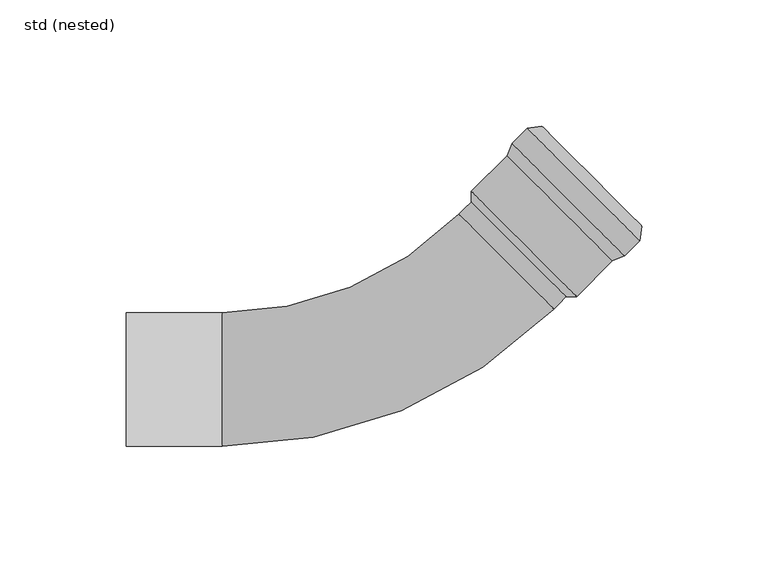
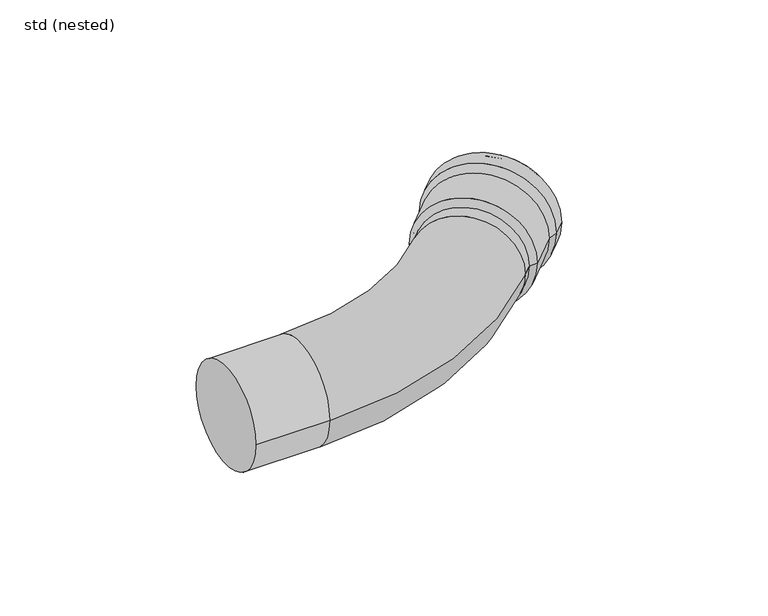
"""IFC4 building model written with IfcOpenShell, lengths in millimetres: pipe fitting geometry, ZZZ_do not use_PIF_ST_UN_GM-X pipe bend_ACO : std (nested)."""

from ifc_helpers import new_model, si_unit, point, frame, origin, place, context, project, spatial, polyline, circle_curve, ellipse_curve, trimmed, source, transform, mapped, element, save
from ifc_brep_helpers import plane_surface, cylinder_surface, revolved_surface, advanced_brep


def std_nested_82956641(model_context):
    return source(origin(), model_context, "Body", "AdvancedBrep", [
        advanced_brep(
        [(93.5481556, 49.0064546, 0.0), (48.9985452, 93.5522986, 0.0), (54.9379911, 99.4922466, 0.0), (99.4876014, 54.9464026, 0.0), (88.7399132, 47.0263523, 0.0), (47.0188495, 88.7438888, 0.0), (60.8069385, 100.4117335, 0.0), (100.4065921, 60.8154278, 0.0), (74.5983754, 32.8836189, 0.0), (32.8773117, 74.6011553, 0.0), (70.3557347, 32.8834395, 0.0), (32.8774911, 70.3585146, 0.0), (72.4769654, 35.0048495, 0.0), (34.9987217, 72.4799246, 0.0), (87.8913312, 48.2991087, 0.0), (48.2916776, 87.8954144, 0.0), (33.9380167, 73.54054, 0.0), (73.5376704, 33.9442342, 0.0), (92.6995736, 50.2792109, 0.0), (50.2713733, 92.7038242, 0.0), (98.0812756, 55.6613679, 0.0), (55.6530753, 98.0859812, 0.0), (98.9246495, 61.0474751, 0.0), (61.0391111, 98.9298105, 0.0)],
        [
            (0, 1, circle_curve(frame((71.2733504, 71.2793766, 0.0), z_axis=(0.7070768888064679, 0.7071366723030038, 0.0), x_axis=(-0.7071366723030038, 0.7070768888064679, 0.0)), 31.5)),
            (1, 2),
            (2, 3, circle_curve(frame((77.2127963, 77.2193246, 0.0), z_axis=(-0.7070768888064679, -0.7071366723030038, 0.0), x_axis=(-0.7071366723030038, 0.7070768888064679, 0.0)), 31.5)),
            (3, 0),
            (1, 0, circle_curve(frame((71.2733504, 71.2793766, 0.0), z_axis=(0.7070768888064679, 0.7071366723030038, 0.0), x_axis=(-0.7071366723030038, 0.7070768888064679, 0.0)), 31.5)),
            (3, 2, circle_curve(frame((77.2127963, 77.2193246, 0.0), z_axis=(-0.7070768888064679, -0.7071366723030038, 0.0), x_axis=(-0.7071366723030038, 0.7070768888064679, 0.0)), 31.5)),
            (4, 5, circle_curve(frame((67.8793813, 67.8851205, 0.0), z_axis=(0.7070768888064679, 0.7071366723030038, 0.0), x_axis=(-0.7071366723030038, 0.7070768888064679, 0.0)), 29.5)),
            (5, 1),
            (0, 4),
            (5, 4, circle_curve(frame((67.8793813, 67.8851205, 0.0), z_axis=(0.7070768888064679, 0.7071366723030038, 0.0), x_axis=(-0.7071366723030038, 0.7070768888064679, 0.0)), 29.5)),
            (2, 6),
            (6, 7, circle_curve(frame((80.6067653, 80.6135806, 0.0), z_axis=(-0.7070768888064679, -0.7071366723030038, 0.0), x_axis=(-0.7071366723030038, 0.7070768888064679, 0.0)), 28.0)),
            (7, 3),
            (7, 6, circle_curve(frame((80.6067653, 80.6135806, 0.0), z_axis=(-0.7070768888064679, -0.7071366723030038, 0.0), x_axis=(-0.7071366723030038, 0.7070768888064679, 0.0)), 28.0)),
            (8, 9, circle_curve(frame((53.7378435, 53.7423871, 0.0), z_axis=(0.7070768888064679, 0.7071366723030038, 0.0), x_axis=(-0.7071366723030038, 0.7070768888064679, 0.0)), 29.5)),
            (9, 5),
            (4, 8),
            (9, 8, circle_curve(frame((53.7378435, 53.7423871, 0.0), z_axis=(0.7070768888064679, 0.7071366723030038, 0.0), x_axis=(-0.7071366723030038, 0.7070768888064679, 0.0)), 29.5)),
            (10, 11, circle_curve(frame((51.6166129, 51.6209771, 0.0), z_axis=(0.7070768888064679, 0.7071366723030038, 0.0), x_axis=(-0.7071366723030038, 0.7070768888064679, 0.0)), 26.5)),
            (11, 9),
            (8, 10),
            (11, 10, circle_curve(frame((51.6166129, 51.6209771, 0.0), z_axis=(0.7070768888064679, 0.7071366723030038, 0.0), x_axis=(-0.7071366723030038, 0.7070768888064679, 0.0)), 26.5)),
            (12, 13, circle_curve(frame((53.7378435, 53.7423871, 0.0), z_axis=(0.7070768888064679, 0.7071366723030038, 0.0), x_axis=(-0.7071366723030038, 0.7070768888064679, 0.0)), 26.5)),
            (13, 11),
            (10, 12),
            (13, 12, circle_curve(frame((53.7378435, 53.7423871, 0.0), z_axis=(0.7070768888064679, 0.7071366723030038, 0.0), x_axis=(-0.7071366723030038, 0.7070768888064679, 0.0)), 26.5)),
            (14, 15, circle_curve(frame((68.0915044, 68.0972615, 0.0), z_axis=(0.7070768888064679, 0.7071366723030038, 0.0), x_axis=(-0.7071366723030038, 0.7070768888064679, 0.0)), 28.0)),
            (15, 16),
            (16, 17, circle_curve(frame((53.7378435, 53.7423871, 0.0), z_axis=(-0.7070768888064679, -0.7071366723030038, 0.0), x_axis=(-0.7071366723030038, 0.7070768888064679, 0.0)), 28.0)),
            (17, 14),
            (15, 14, circle_curve(frame((68.0915044, 68.0972615, 0.0), z_axis=(0.7070768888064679, 0.7071366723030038, 0.0), x_axis=(-0.7071366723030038, 0.7070768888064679, 0.0)), 28.0)),
            (17, 16, circle_curve(frame((53.7378435, 53.7423871, 0.0), z_axis=(-0.7070768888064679, -0.7071366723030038, 0.0), x_axis=(-0.7071366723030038, 0.7070768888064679, 0.0)), 28.0)),
            (18, 19, circle_curve(frame((71.4854735, 71.4915176, 0.0), z_axis=(0.7070768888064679, 0.7071366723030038, 0.0), x_axis=(-0.7071366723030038, 0.7070768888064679, 0.0)), 30.0)),
            (19, 15),
            (14, 18),
            (19, 18, circle_curve(frame((71.4854735, 71.4915176, 0.0), z_axis=(0.7070768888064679, 0.7071366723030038, 0.0), x_axis=(-0.7071366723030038, 0.7070768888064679, 0.0)), 30.0)),
            (20, 21, circle_curve(frame((76.8671754, 76.8736746, 0.0), z_axis=(0.7070768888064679, 0.7071366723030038, 0.0), x_axis=(-0.7071366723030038, 0.7070768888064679, 0.0)), 30.0)),
            (21, 19),
            (18, 20),
            (21, 20, circle_curve(frame((76.8671754, 76.8736746, 0.0), z_axis=(0.7070768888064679, 0.7071366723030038, 0.0), x_axis=(-0.7071366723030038, 0.7070768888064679, 0.0)), 30.0)),
            (22, 23, circle_curve(frame((79.9818803, 79.9886428, 0.0), z_axis=(0.7070768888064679, 0.7071366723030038, 0.0), x_axis=(-0.7071366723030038, 0.7070768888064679, 0.0)), 26.7879887)),
            (23, 21),
            (20, 22),
            (23, 22, circle_curve(frame((79.9818803, 79.9886428, 0.0), z_axis=(0.7070768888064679, 0.7071366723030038, 0.0), x_axis=(-0.7071366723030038, 0.7070768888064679, 0.0)), 26.7879887)),
            (6, 23),
            (22, 7),
            (16, 13),
            (12, 17),
        ],
        [
            cylinder_surface(frame((78.2341064, 78.2407211, 0.0), z_axis=(-0.7070768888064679, -0.7071366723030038, 0.0), x_axis=(-0.7071366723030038, 0.7070768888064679, 0.0)), 31.5),
            revolved_surface(polyline([(48.9985452, 93.5522986, 0.0), (47.0188495, 88.7438888, 0.0)]), (78.2341064, 78.2407211, 0.0), (-0.7070768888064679, -0.7071366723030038, 0.0)),
            revolved_surface(polyline([(60.8069385, 100.4117335, 0.0), (54.9379911, 99.4922466, 0.0)]), (78.2341064, 78.2407211, 0.0), (-0.7070768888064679, -0.7071366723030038, 0.0)),
            cylinder_surface(frame((78.2341064, 78.2407211, 0.0), z_axis=(-0.7070768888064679, -0.7071366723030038, 0.0), x_axis=(-0.7071366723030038, 0.7070768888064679, 0.0)), 29.5),
            revolved_surface(polyline([(32.8773117, 74.6011553, 0.0), (32.8774911, 70.3585146, 0.0)]), (78.2341064, 78.2407211, 0.0), (-0.7070768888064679, -0.7071366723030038, 0.0)),
            revolved_surface(polyline([(32.87749105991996, 70.35851461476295, 0.0), (34.99872173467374, 72.47992464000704, 0.0)]), (78.2341064, 78.2407211, 0.0), (-0.7070768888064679, -0.7071366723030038, 0.0)),
            revolved_surface(polyline([(33.93801670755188, 73.54053995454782, 0.0), (48.29167758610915, 87.8954144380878, 0.0)]), (78.2341064, 78.2407211, 0.0), (-0.7070768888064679, -0.7071366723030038, 0.0)),
            revolved_surface(polyline([(48.2916776, 87.8954144, 0.0), (50.2713733, 92.7038242, 0.0)]), (78.2341064, 78.2407211, 0.0), (-0.7070768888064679, -0.7071366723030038, 0.0)),
            revolved_surface(polyline([(50.27137327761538, 92.7038242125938, 0.0), (55.653075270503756, 98.08598122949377, 0.0)]), (78.2341064, 78.2407211, 0.0), (-0.7070768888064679, -0.7071366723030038, 0.0)),
            revolved_surface(polyline([(55.6530753, 98.0859812, 0.0), (61.0391111, 98.9298105, 0.0)]), (78.2341064, 78.2407211, 0.0), (-0.7070768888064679, -0.7071366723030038, 0.0)),
            revolved_surface(polyline([(61.0391111, 98.9298105, 0.0), (60.8069385, 100.4117335, 0.0)]), (78.2341064, 78.2407211, 0.0), (-0.7070768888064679, -0.7071366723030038, 0.0)),
            plane_surface(frame((53.7378435, 53.7423871, 0.0), z_axis=(0.7070768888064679, 0.7071366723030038, 0.0), x_axis=(-0.7071366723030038, 0.7070768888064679, 0.0))),
        ],
        [
            (0, [[1, 2, 3, 4]]),
            (0, [[5, -4, 6, -2]]),
            (1, [[7, 8, -1, 9]]),
            (1, [[10, -9, -5, -8]]),
            (2, [[-3, 11, 12, 13]]),
            (2, [[-6, -13, 14, -11]]),
            (3, [[15, 16, -7, 17]]),
            (3, [[18, -17, -10, -16]]),
            (4, [[19, 20, -15, 21]]),
            (4, [[22, -21, -18, -20]]),
            (5, [[23, 24, -19, 25]]),
            (5, [[26, -25, -22, -24]]),
            (6, [[27, 28, 29, 30]]),
            (6, [[31, -30, 32, -28]]),
            (7, [[33, 34, -27, 35]]),
            (7, [[36, -35, -31, -34]]),
            (8, [[37, 38, -33, 39]]),
            (8, [[40, -39, -36, -38]]),
            (9, [[41, 42, -37, 43]]),
            (9, [[44, -43, -40, -42]]),
            (10, [[-12, 45, -41, 46]]),
            (10, [[-14, -46, -44, -45]]),
            (11, [[-29, 47, -23, 48]]),
            (11, [[-32, -48, -26, -47]]),
        ],
    ),
        advanced_brep(
        [(27.9279528, 65.4085579, 0.0), (-66.0, 26.5, 0.0), (-66.0, -26.5, 0.0), (65.4061965, 27.9334828, 0.0), (46.6670747, 46.6710204, 26.5), (46.6670747, 46.6710204, -26.5), (-104.0, -26.5, 0.0), (-104.0, 26.5, 0.0), (72.4769654, 35.0048495, 0.0), (34.9987217, 72.4799246, 0.0)],
        [
            (0, 1, circle_curve(frame((-66.0, 159.3285698, 0.0), z_axis=(0.0, 0.0, -1.0), x_axis=(0.0, -1.0, 0.0)), 132.8285698)),
            (1, 2, circle_curve(frame((-66.0, 0.0, 0.0), z_axis=(1.0, 0.0, 0.0), x_axis=(0.0, 1.0, 0.0)), 26.5)),
            (2, 3, circle_curve(frame((-66.0, 159.3285698, 0.0), z_axis=(0.0, 0.0, 1.0), x_axis=(0.0, -1.0, 0.0)), 185.8285698)),
            (3, 4, circle_curve(frame((46.6670747, 46.6710204, 0.0), z_axis=(-0.7070768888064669, -0.7071366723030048, 0.0), x_axis=(-0.7071366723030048, 0.7070768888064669, 0.0)), 26.5)),
            (4, 0, circle_curve(frame((46.6670747, 46.6710204, 0.0), z_axis=(-0.7070768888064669, -0.7071366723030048, 0.0), x_axis=(-0.7071366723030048, 0.7070768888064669, 0.0)), 26.5)),
            (0, 5, circle_curve(frame((46.6670747, 46.6710204, 0.0), z_axis=(-0.7070768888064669, -0.7071366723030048, 0.0), x_axis=(-0.7071366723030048, 0.7070768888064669, 0.0)), 26.5)),
            (5, 3, circle_curve(frame((46.6670747, 46.6710204, 0.0), z_axis=(-0.7070768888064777, -0.707136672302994, 0.0), x_axis=(-0.707136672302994, 0.7070768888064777, 0.0)), 26.5)),
            (2, 1, circle_curve(frame((-66.0, 0.0, 0.0), z_axis=(1.0, 0.0, 0.0), x_axis=(0.0, 1.0, 0.0)), 26.5)),
            (6, 7, circle_curve(frame((-104.0, 0.0, 0.0), z_axis=(-1.0, 0.0, 0.0), x_axis=(0.0, 1.0, 0.0)), 26.5)),
            (7, 6, circle_curve(frame((-104.0, 0.0, 0.0), z_axis=(-1.0, 0.0, 0.0), x_axis=(0.0, 1.0, 0.0)), 26.5)),
            (7, 1),
            (2, 6),
            (8, 9, circle_curve(frame((53.7378435, 53.7423871, 0.0), z_axis=(0.7070768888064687, 0.7071366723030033, 0.0), x_axis=(-0.7071366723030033, 0.7070768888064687, 0.0)), 26.5)),
            (9, 8, circle_curve(frame((53.7378435, 53.7423871, 0.0), z_axis=(0.7070768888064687, 0.7071366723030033, 0.0), x_axis=(-0.7071366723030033, 0.7070768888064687, 0.0)), 26.5)),
            (9, 0),
            (3, 8),
        ],
        [
            revolved_surface(trimmed(ellipse_curve(frame((-66.0, 0.0, 0.0), z_axis=(-1.0, 0.0, 0.0), x_axis=(0.0, 1.0, 0.0)), 26.5, 26.5), [point((-66.0, -26.5, 0.0))], [point((-66.0, 26.5, 0.0))], True, "CARTESIAN"), (-66.0, 159.3285698, 0.0), (0.0, 0.0, 1.0)),
            revolved_surface(trimmed(ellipse_curve(frame((-66.0, 0.0, 0.0), z_axis=(-1.0, 0.0, 0.0), x_axis=(0.0, 1.0, 0.0)), 26.5, 26.5), [point((-66.0, 26.5, 0.0))], [point((-66.0, -26.5, 0.0))], True, "CARTESIAN"), (-66.0, 159.3285698, 0.0), (0.0, 0.0, 1.0)),
            plane_surface(frame((-104.0, 26.5, 0.0), z_axis=(-1.0, 0.0, 0.0), x_axis=(0.0, 0.0, -1.0))),
            cylinder_surface(frame((-104.0, 0.0, 0.0), z_axis=(1.0, 0.0, 0.0), x_axis=(0.0, 1.0, 0.0)), 26.5),
            plane_surface(frame((53.7378435, 53.7423871, 0.0), z_axis=(0.7070768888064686, 0.7071366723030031, 0.0), x_axis=(0.0, 0.0, 1.0))),
            cylinder_surface(frame((46.6670747, 46.6710204, 0.0), z_axis=(-0.7070768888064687, -0.7071366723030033, 0.0), x_axis=(-0.7071366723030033, 0.7070768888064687, 0.0)), 26.5),
        ],
        [
            (0, [[1, 2, 3, 4, 5]]),
            (1, [[-1, 6, 7, -3, 8]]),
            (2, [[9, 10]]),
            (3, [[-10, 11, -8, 12]]),
            (3, [[-9, -12, -2, -11]]),
            (4, [[13, 14]]),
            (5, [[-14, 15, -5, -4, 16]]),
            (5, [[-13, -16, -7, -6, -15]]),
        ],
    ),
    ])


if __name__ == "__main__":
    model = new_model("IFC4")
    model_context = context("Model", 3, world=origin())
    ifc_project = project(units=[si_unit("LENGTHUNIT", "METRE", prefix="MILLI")], contexts=[model_context])
    site = spatial("IfcSite", under=ifc_project)
    building = spatial("IfcBuilding", under=site)
    placement = place(None, origin())
    std_nested_shape = std_nested_82956641(model_context)
    element("IfcPipeFitting", 1, ObjectType="ZZZ_do not use_PIF_ST_UN_GM-X pipe bend_ACO : std (nested)", at=placement, inside=building, context=model_context, shape_type="MappedRepresentation", body=[
        mapped(std_nested_shape, transform((0.0, 0.0, 0.0), x_axis=(1.0, 0.0, 0.0), y_axis=(0.0, 1.0, 0.0), z_axis=(0.0, 0.0, 1.0))),
    ])
    save(model, "model.ifc")
